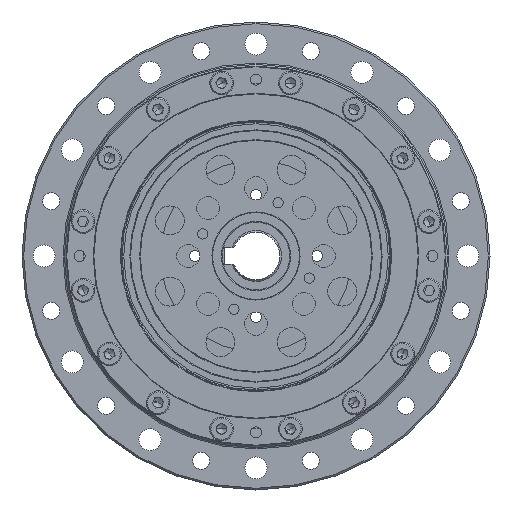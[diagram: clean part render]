
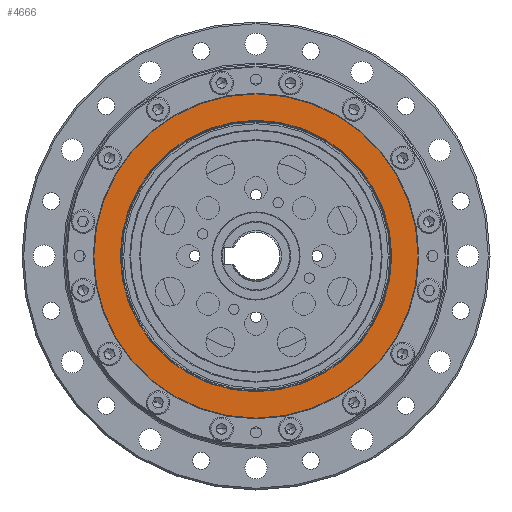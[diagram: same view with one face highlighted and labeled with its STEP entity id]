
A CAD part, left-side view. The second image highlights one B-rep face of the part: STEP entity #4666.
In plain terms, the highlighted planar face has unit normal (-1, 0, 0).
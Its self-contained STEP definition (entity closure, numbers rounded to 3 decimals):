
#665 = AXIS2_PLACEMENT_3D ( 'NONE', #18420, #17542, #18531 ) ;
#1381 = VERTEX_POINT ( 'NONE', #7211 ) ;
#1412 = EDGE_CURVE ( 'NONE', #9352, #2967, #18327, .T. ) ;
#1600 = EDGE_LOOP ( 'NONE', ( #9823, #11363 ) ) ;
#2967 = VERTEX_POINT ( 'NONE', #15137 ) ;
#4062 = CIRCLE ( 'NONE', #15313, 47.8 ) ;
#4219 = AXIS2_PLACEMENT_3D ( 'NONE', #17472, #17547, #15108 ) ;
#4666 = ADVANCED_FACE ( 'NONE', ( #5767, #14685 ), #16328, .T. ) ;
#4689 = CARTESIAN_POINT ( 'NONE',  ( -40.141, -1.711, 138. ) ) ;
#5767 = FACE_OUTER_BOUND ( 'NONE', #14988, .T. ) ;
#5812 = CIRCLE ( 'NONE', #16169, 40. ) ;
#6194 = DIRECTION ( 'NONE',  ( 0., 0., 1. ) ) ;
#7211 = CARTESIAN_POINT ( 'NONE',  ( -40.141, -1.711, 90.2 ) ) ;
#7319 = DIRECTION ( 'NONE',  ( -1., 0., 0. ) ) ;
#8625 = EDGE_CURVE ( 'NONE', #2967, #9352, #5812, .T. ) ;
#9352 = VERTEX_POINT ( 'NONE', #12186 ) ;
#9362 = ORIENTED_EDGE ( 'NONE', *, *, #13592, .T. ) ;
#9823 = ORIENTED_EDGE ( 'NONE', *, *, #8625, .F. ) ;
#10042 = CARTESIAN_POINT ( 'NONE',  ( -40.141, -1.711, 185.8 ) ) ;
#10125 = AXIS2_PLACEMENT_3D ( 'NONE', #15797, #7319, #17211 ) ;
#10910 = ORIENTED_EDGE ( 'NONE', *, *, #11793, .T. ) ;
#11363 = ORIENTED_EDGE ( 'NONE', *, *, #1412, .F. ) ;
#11793 = EDGE_CURVE ( 'NONE', #16375, #1381, #18587, .T. ) ;
#12186 = CARTESIAN_POINT ( 'NONE',  ( -40.141, -1.711, 98. ) ) ;
#13592 = EDGE_CURVE ( 'NONE', #1381, #16375, #4062, .T. ) ;
#14680 = DIRECTION ( 'NONE',  ( -1., 0., 0. ) ) ;
#14685 = FACE_BOUND ( 'NONE', #1600, .T. ) ;
#14714 = DIRECTION ( 'NONE',  ( -1., 0., 0. ) ) ;
#14738 = CARTESIAN_POINT ( 'NONE',  ( -40.141, -1.711, 138. ) ) ;
#14932 = DIRECTION ( 'NONE',  ( 0., 0., 1. ) ) ;
#14988 = EDGE_LOOP ( 'NONE', ( #9362, #10910 ) ) ;
#15108 = DIRECTION ( 'NONE',  ( 0., 0., 1. ) ) ;
#15137 = CARTESIAN_POINT ( 'NONE',  ( -40.141, -1.711, 178. ) ) ;
#15313 = AXIS2_PLACEMENT_3D ( 'NONE', #4689, #14714, #6194 ) ;
#15797 = CARTESIAN_POINT ( 'NONE',  ( -40.141, -1.711, 138. ) ) ;
#16169 = AXIS2_PLACEMENT_3D ( 'NONE', #14738, #14680, #14932 ) ;
#16328 = PLANE ( 'NONE',  #665 ) ;
#16375 = VERTEX_POINT ( 'NONE', #10042 ) ;
#17211 = DIRECTION ( 'NONE',  ( 0., 0., 1. ) ) ;
#17472 = CARTESIAN_POINT ( 'NONE',  ( -40.141, -1.711, 138. ) ) ;
#17542 = DIRECTION ( 'NONE',  ( -1., 0., 0. ) ) ;
#17547 = DIRECTION ( 'NONE',  ( -1., 0., 0. ) ) ;
#18327 = CIRCLE ( 'NONE', #4219, 40. ) ;
#18420 = CARTESIAN_POINT ( 'NONE',  ( -40.141, -1.711, 138. ) ) ;
#18531 = DIRECTION ( 'NONE',  ( 0., 0., 1. ) ) ;
#18587 = CIRCLE ( 'NONE', #10125, 47.8 ) ;
